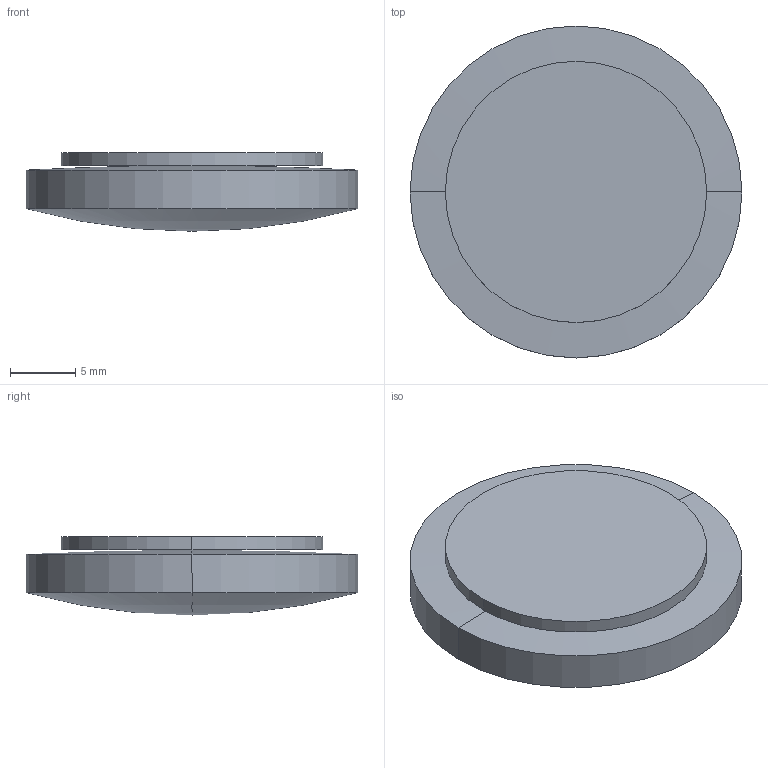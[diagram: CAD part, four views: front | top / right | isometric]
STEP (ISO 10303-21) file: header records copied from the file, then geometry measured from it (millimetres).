
FILE_DESCRIPTION(('STEP AP214'),'1');
FILE_NAME('LLV-25-80.STEP','2020-03-09T17:42:19',(' '),(' '),'Spatial InterOp 3D',' ',' ');
FILE_SCHEMA(('AUTOMOTIVE_DESIGN { 1 0 10303 214 1 1 1 1 }'));
Length unit declared in the file: millimetre
Products named in the file (1): 1
Bounding box: 25.4 x 25.4 x 6 mm (x, y, z)
Volume: 2331.5 mm3; surface area: 1949.8 mm2
Topology: 2 solids, 2 shells, 10 faces, 20 edges, 10 vertices
Faces by surface type: sphere 4, cylinder 4, plane 2
Entity records: 255 total; most frequent: DIRECTION 52, CARTESIAN_POINT 38, ORIENTED_EDGE 32, AXIS2_PLACEMENT_3D 24, EDGE_CURVE 16, CIRCLE 12, ADVANCED_FACE 10, FACE_OUTER_BOUND 10
